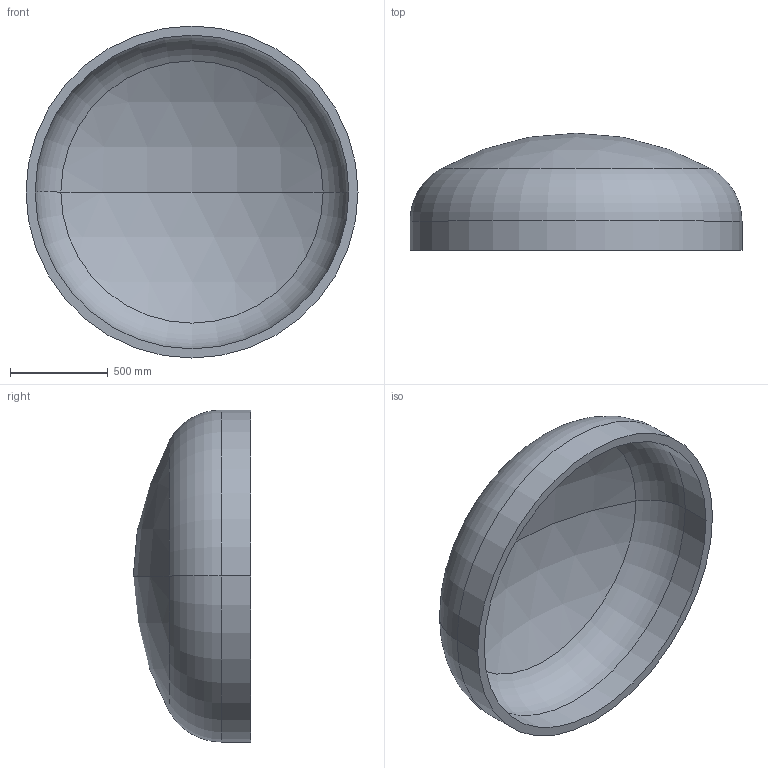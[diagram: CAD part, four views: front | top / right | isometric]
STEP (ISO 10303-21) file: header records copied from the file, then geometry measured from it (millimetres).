
FILE_DESCRIPTION (( 'STEP AP203' ), '1' );
FILE_NAME ('DIN 28013 Korbbogenform_-_Boden DIN 28013 - 1700 x 150 - I - s=47.step', '2016-07-01T11:51:57', ( '' ), ( '' ), 'SwSTEP 2.0', 'SolidWorks 2013', '' );
FILE_SCHEMA (( 'CONFIG_CONTROL_DESIGN' ));
Length unit declared in the file: millimetre
Products named in the file (1): DIN 28013 Korbbogenform_-_Boden DIN 28013 - 1700 x 150 - I - s=47
Bounding box: 1700 x 600.36 x 1700 mm (x, y, z)
Volume: 178914880.3 mm3; surface area: 7862097 mm2
Topology: 1 solids, 1 shells, 13 faces, 24 edges, 14 vertices
Faces by surface type: torus 4, cylinder 4, sphere 4, plane 1
Entity records: 407 total; most frequent: DIRECTION 72, CARTESIAN_POINT 52, ORIENTED_EDGE 48, AXIS2_PLACEMENT_3D 34, EDGE_CURVE 24, CIRCLE 20, VERTEX_POINT 14, EDGE_LOOP 14
